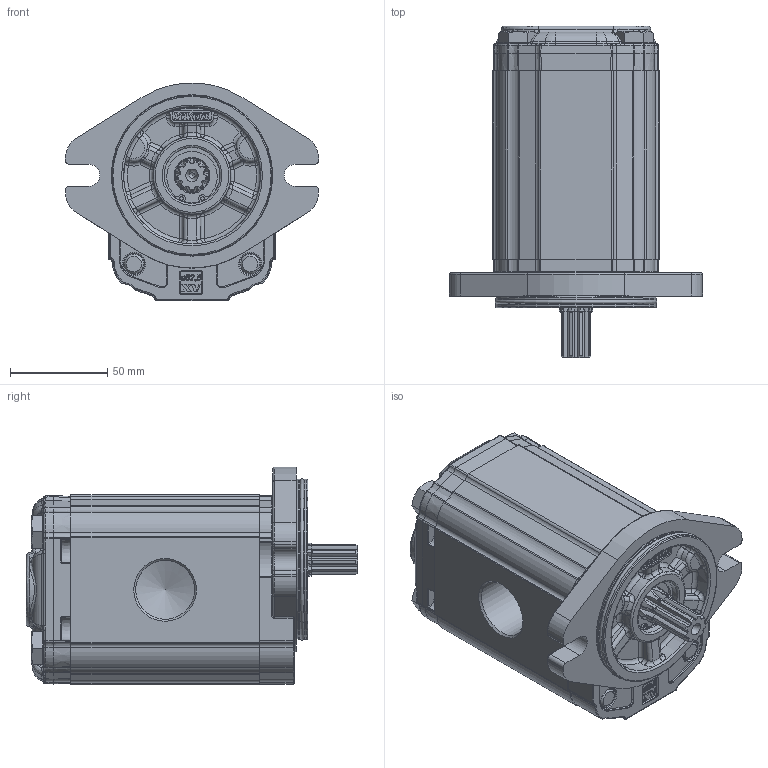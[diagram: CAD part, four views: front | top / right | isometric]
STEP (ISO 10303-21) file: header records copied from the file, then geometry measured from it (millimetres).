
FILE_DESCRIPTION(/* description */ ('Unknown'),/* implementation_level */ '2;1');
FILE_NAME(/* name */ 'X2M6131IDDF',/* time_stamp */ '2021-04-26T12:01:13+02:00',/* author */ ('Unknown'),/* organization */ ('Unknown'),/* preprocessor_version */ 'ST-DEVELOPER v16.7',/* originating_system */ 'Solid Edge',/* authorisation */ 'Unknown');
FILE_SCHEMA (('AUTOMOTIVE_DESIGN {1 0 10303 214 3 1 1}'));
Products named in the file (5): X2M6131IDDF; X2M31; 2I; X2DDH97; XM219-F
Assembly tree (4 placements, depth 2):
  X2M6131IDDF
    X2M31
    2I
    X2DDH97
    XM219-F
Bounding box: 130.38 x 170.7 x 112.3 mm (x, y, z)
Volume: 1037354.6 mm3; surface area: 120720.5 mm2
Topology: 4 solids, 5 shells, 2113 faces, 5215 edges, 3176 vertices
Faces by surface type: cylinder 623, plane 573, bspline 513, torus 262, cone 104, sphere 38
Full cylindrical faces by diameter (mm): 2 x2, 10 x4, 10.5 x4, 11 x2, 16 x4, 17.42 x1, 18 x1, 20.595 x1, 23.332 x1, 25.834 x1, 28.5 x1, 28.56 x1, 28.57 x1, 28.8 x1, 30.291 x2, 30.4 x1, 79.6 x2, 82.5 x2
Entity records: 87672 total; most frequent: CARTESIAN_POINT 28215, ORIENTED_EDGE 10082, DIRECTION 8460, EDGE_CURVE 5041, AXIS2_PLACEMENT_3D 3219, VERTEX_POINT 3114, FACE_BOUND 2297, EDGE_LOOP 2294
